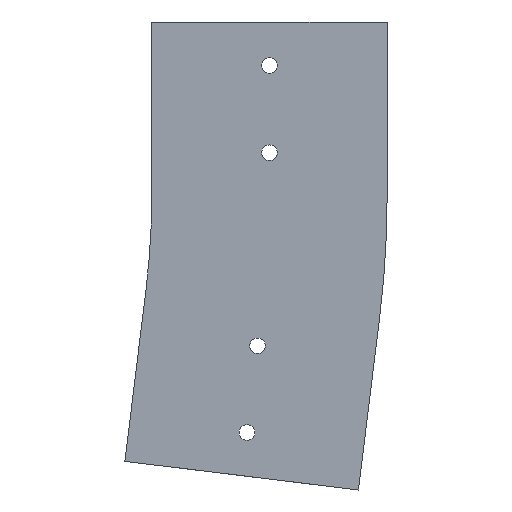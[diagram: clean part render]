
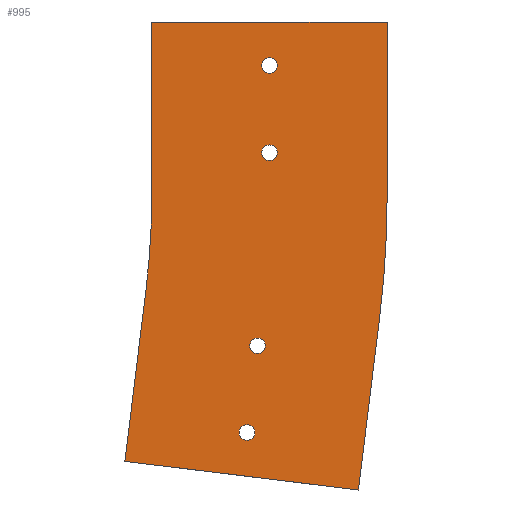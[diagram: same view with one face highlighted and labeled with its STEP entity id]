
A CAD part, left-side view. The second image highlights one B-rep face of the part: STEP entity #995.
In plain terms, the highlighted planar face has unit normal (-1, 0, 0).
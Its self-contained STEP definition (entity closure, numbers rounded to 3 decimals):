
#27 = DIRECTION ( 'NONE',  ( 0., -0.993, -0.122 ) ) ;
#30 = CARTESIAN_POINT ( 'NONE',  ( -43., -51.083, -268.415 ) ) ;
#37 = CARTESIAN_POINT ( 'NONE',  ( -43., 67.5, -100. ) ) ;
#39 = DIRECTION ( 'NONE',  ( 0., 0., 1. ) ) ;
#43 = DIRECTION ( 'NONE',  ( 0., 0., 1. ) ) ;
#65 = CARTESIAN_POINT ( 'NONE',  ( -43., 0., -75. ) ) ;
#66 = DIRECTION ( 'NONE',  ( -1., 0., 0. ) ) ;
#95 = DIRECTION ( 'NONE',  ( 0., 0., -1. ) ) ;
#106 = DIRECTION ( 'NONE',  ( 0., -1., 0. ) ) ;
#107 = CARTESIAN_POINT ( 'NONE',  ( -43., -67.5, 0. ) ) ;
#111 = CARTESIAN_POINT ( 'NONE',  ( -43., 6.774, -185.748 ) ) ;
#112 = DIRECTION ( 'NONE',  ( 0., 0., 1. ) ) ;
#116 = DIRECTION ( 'NONE',  ( -1., 0., 0. ) ) ;
#122 = DIRECTION ( 'NONE',  ( -1., 0., 0. ) ) ;
#133 = CARTESIAN_POINT ( 'NONE',  ( -43., 500., -100. ) ) ;
#134 = DIRECTION ( 'NONE',  ( 1., 0., 0. ) ) ;
#136 = DIRECTION ( 'NONE',  ( 0., 0., 1. ) ) ;
#144 = CARTESIAN_POINT ( 'NONE',  ( -43., 0., -25. ) ) ;
#191 = VECTOR ( 'NONE', #1602, 1000. ) ;
#192 = LINE ( 'NONE', #1603, #191 ) ;
#195 = FACE_OUTER_BOUND ( 'NONE', #445, .T. ) ;
#196 = FACE_BOUND ( 'NONE', #499, .T. ) ;
#197 = FACE_BOUND ( 'NONE', #478, .T. ) ;
#198 = FACE_BOUND ( 'NONE', #446, .T. ) ;
#199 = FACE_BOUND ( 'NONE', #500, .T. ) ;
#445 = EDGE_LOOP ( 'NONE', ( #555, #556, #557, #558, #559, #560, #561, #562 ) ) ;
#446 = EDGE_LOOP ( 'NONE', ( #549, #550 ) ) ;
#478 = EDGE_LOOP ( 'NONE', ( #551, #552 ) ) ;
#499 = EDGE_LOOP ( 'NONE', ( #553, #554 ) ) ;
#500 = EDGE_LOOP ( 'NONE', ( #547, #548 ) ) ;
#547 = ORIENTED_EDGE ( 'NONE', *, *, #2576, .F. ) ;
#548 = ORIENTED_EDGE ( 'NONE', *, *, #2793, .F. ) ;
#549 = ORIENTED_EDGE ( 'NONE', *, *, #2593, .F. ) ;
#550 = ORIENTED_EDGE ( 'NONE', *, *, #2636, .F. ) ;
#551 = ORIENTED_EDGE ( 'NONE', *, *, #2818, .F. ) ;
#552 = ORIENTED_EDGE ( 'NONE', *, *, #2662, .F. ) ;
#553 = ORIENTED_EDGE ( 'NONE', *, *, #2825, .F. ) ;
#554 = ORIENTED_EDGE ( 'NONE', *, *, #2566, .F. ) ;
#555 = ORIENTED_EDGE ( 'NONE', *, *, #2851, .F. ) ;
#556 = ORIENTED_EDGE ( 'NONE', *, *, #2801, .F. ) ;
#557 = ORIENTED_EDGE ( 'NONE', *, *, #2612, .T. ) ;
#558 = ORIENTED_EDGE ( 'NONE', *, *, #2703, .T. ) ;
#559 = ORIENTED_EDGE ( 'NONE', *, *, #2805, .T. ) ;
#560 = ORIENTED_EDGE ( 'NONE', *, *, #2561, .F. ) ;
#561 = ORIENTED_EDGE ( 'NONE', *, *, #2842, .F. ) ;
#562 = ORIENTED_EDGE ( 'NONE', *, *, #2628, .T. ) ;
#995 = ADVANCED_FACE ( 'NONE', ( #199, #198, #197, #196, #195 ), #1770, .T. ) ;
#1021 = CIRCLE ( 'NONE', #2475, 4.5 ) ;
#1023 = VECTOR ( 'NONE', #106, 1000. ) ;
#1032 = VECTOR ( 'NONE', #27, 1000. ) ;
#1034 = LINE ( 'NONE', #30, #1032 ) ;
#1037 = VECTOR ( 'NONE', #39, 1000. ) ;
#1038 = LINE ( 'NONE', #37, #1037 ) ;
#1051 = CIRCLE ( 'NONE', #2482, 4.5 ) ;
#1064 = CIRCLE ( 'NONE', #2474, 4.5 ) ;
#1090 = CIRCLE ( 'NONE', #2471, 567.5 ) ;
#1096 = LINE ( 'NONE', #107, #1023 ) ;
#1126 = CIRCLE ( 'NONE', #2532, 4.5 ) ;
#1207 = VECTOR ( 'NONE', #2124, 1000. ) ;
#1208 = LINE ( 'NONE', #2123, #1207 ) ;
#1283 = CIRCLE ( 'NONE', #2507, 4.5 ) ;
#1331 = CIRCLE ( 'NONE', #2511, 4.5 ) ;
#1341 = CIRCLE ( 'NONE', #2527, 4.5 ) ;
#1350 = VECTOR ( 'NONE', #1463, 1000. ) ;
#1351 = LINE ( 'NONE', #1464, #1350 ) ;
#1399 = CIRCLE ( 'NONE', #2517, 432.5 ) ;
#1442 = CIRCLE ( 'NONE', #2520, 4.5 ) ;
#1446 = DIRECTION ( 'NONE',  ( 0., 0., 1. ) ) ;
#1447 = DIRECTION ( 'NONE',  ( -1., 0., 0. ) ) ;
#1448 = CARTESIAN_POINT ( 'NONE',  ( -43., 12.867, -235.376 ) ) ;
#1463 = DIRECTION ( 'NONE',  ( 0., 0., 1. ) ) ;
#1464 = CARTESIAN_POINT ( 'NONE',  ( -43., -67.5, -100. ) ) ;
#1500 = DIRECTION ( 'NONE',  ( 0., 0., -1. ) ) ;
#1501 = DIRECTION ( 'NONE',  ( 1., 0., 0. ) ) ;
#1502 = CARTESIAN_POINT ( 'NONE',  ( -43., 500., -100. ) ) ;
#1533 = DIRECTION ( 'NONE',  ( 0., 0., 1. ) ) ;
#1534 = DIRECTION ( 'NONE',  ( -1., 0., 0. ) ) ;
#1535 = CARTESIAN_POINT ( 'NONE',  ( -43., 12.867, -235.376 ) ) ;
#1568 = DIRECTION ( 'NONE',  ( 0., 0., 1. ) ) ;
#1569 = DIRECTION ( 'NONE',  ( -1., 0., 0. ) ) ;
#1570 = CARTESIAN_POINT ( 'NONE',  ( -43., 0., -75. ) ) ;
#1589 = DIRECTION ( 'NONE',  ( 0., 0., 1. ) ) ;
#1590 = DIRECTION ( 'NONE',  ( -1., 0., 0. ) ) ;
#1591 = CARTESIAN_POINT ( 'NONE',  ( -43., 0., -25. ) ) ;
#1602 = DIRECTION ( 'NONE',  ( 0., 0.122, -0.993 ) ) ;
#1603 = CARTESIAN_POINT ( 'NONE',  ( -43., -63.27, -169.161 ) ) ;
#1623 = CARTESIAN_POINT ( 'NONE',  ( -43., 0., -79.5 ) ) ;
#1624 = CARTESIAN_POINT ( 'NONE',  ( -43., -63.27, -169.161 ) ) ;
#1633 = CARTESIAN_POINT ( 'NONE',  ( -43., 0., -20.5 ) ) ;
#1637 = CARTESIAN_POINT ( 'NONE',  ( -43., 0., -70.5 ) ) ;
#1653 = CARTESIAN_POINT ( 'NONE',  ( -43., 12.867, -230.876 ) ) ;
#1677 = CARTESIAN_POINT ( 'NONE',  ( -43., -67.5, 0. ) ) ;
#1680 = CARTESIAN_POINT ( 'NONE',  ( -43., 67.5, 0. ) ) ;
#1681 = CARTESIAN_POINT ( 'NONE',  ( -43., 12.867, -239.876 ) ) ;
#1683 = CARTESIAN_POINT ( 'NONE',  ( -43., 0., -29.5 ) ) ;
#1684 = CARTESIAN_POINT ( 'NONE',  ( -43., 70.724, -152.708 ) ) ;
#1692 = CARTESIAN_POINT ( 'NONE',  ( -43., -67.5, -100. ) ) ;
#1695 = CARTESIAN_POINT ( 'NONE',  ( -43., 6.774, -181.248 ) ) ;
#1709 = CARTESIAN_POINT ( 'NONE',  ( -43., 82.911, -251.963 ) ) ;
#1718 = CARTESIAN_POINT ( 'NONE',  ( -43., -51.083, -268.415 ) ) ;
#1753 = CARTESIAN_POINT ( 'NONE',  ( -43., 67.5, -100. ) ) ;
#1758 = CARTESIAN_POINT ( 'NONE',  ( -43., 6.774, -190.248 ) ) ;
#1767 = DIRECTION ( 'NONE',  ( 0., 0., 1. ) ) ;
#1768 = DIRECTION ( 'NONE',  ( -1., 0., 0. ) ) ;
#1769 = CARTESIAN_POINT ( 'NONE',  ( -43., -67.5, -100. ) ) ;
#1770 = PLANE ( 'NONE',  #2535 ) ;
#1907 = DIRECTION ( 'NONE',  ( -1., 0., 0. ) ) ;
#1927 = VERTEX_POINT ( 'NONE', #1758 ) ;
#1963 = CARTESIAN_POINT ( 'NONE',  ( -43., 6.774, -185.748 ) ) ;
#2013 = DIRECTION ( 'NONE',  ( 0., 0., 1. ) ) ;
#2123 = CARTESIAN_POINT ( 'NONE',  ( -43., 70.724, -152.708 ) ) ;
#2124 = DIRECTION ( 'NONE',  ( 0., 0.122, -0.993 ) ) ;
#2272 = VERTEX_POINT ( 'NONE', #1753 ) ;
#2318 = VERTEX_POINT ( 'NONE', #1718 ) ;
#2329 = VERTEX_POINT ( 'NONE', #1709 ) ;
#2343 = VERTEX_POINT ( 'NONE', #1695 ) ;
#2346 = VERTEX_POINT ( 'NONE', #1692 ) ;
#2354 = VERTEX_POINT ( 'NONE', #1684 ) ;
#2355 = VERTEX_POINT ( 'NONE', #1683 ) ;
#2357 = VERTEX_POINT ( 'NONE', #1681 ) ;
#2358 = VERTEX_POINT ( 'NONE', #1680 ) ;
#2363 = VERTEX_POINT ( 'NONE', #1677 ) ;
#2389 = VERTEX_POINT ( 'NONE', #1653 ) ;
#2405 = VERTEX_POINT ( 'NONE', #1637 ) ;
#2409 = VERTEX_POINT ( 'NONE', #1633 ) ;
#2418 = VERTEX_POINT ( 'NONE', #1624 ) ;
#2419 = VERTEX_POINT ( 'NONE', #1623 ) ;
#2471 = AXIS2_PLACEMENT_3D ( 'NONE', #133, #134, #95 ) ;
#2474 = AXIS2_PLACEMENT_3D ( 'NONE', #144, #116, #136 ) ;
#2475 = AXIS2_PLACEMENT_3D ( 'NONE', #111, #122, #112 ) ;
#2482 = AXIS2_PLACEMENT_3D ( 'NONE', #65, #66, #43 ) ;
#2507 = AXIS2_PLACEMENT_3D ( 'NONE', #1963, #1907, #2013 ) ;
#2511 = AXIS2_PLACEMENT_3D ( 'NONE', #1448, #1447, #1446 ) ;
#2517 = AXIS2_PLACEMENT_3D ( 'NONE', #1502, #1501, #1500 ) ;
#2520 = AXIS2_PLACEMENT_3D ( 'NONE', #1535, #1534, #1533 ) ;
#2527 = AXIS2_PLACEMENT_3D ( 'NONE', #1570, #1569, #1568 ) ;
#2532 = AXIS2_PLACEMENT_3D ( 'NONE', #1591, #1590, #1589 ) ;
#2535 = AXIS2_PLACEMENT_3D ( 'NONE', #1769, #1768, #1767 ) ;
#2561 = EDGE_CURVE ( 'NONE', #2418, #2318, #192, .T. ) ;
#2566 = EDGE_CURVE ( 'NONE', #2355, #2409, #1126, .T. ) ;
#2576 = EDGE_CURVE ( 'NONE', #2405, #2419, #1341, .T. ) ;
#2593 = EDGE_CURVE ( 'NONE', #2389, #2357, #1442, .T. ) ;
#2612 = EDGE_CURVE ( 'NONE', #2272, #2354, #1399, .T. ) ;
#2628 = EDGE_CURVE ( 'NONE', #2346, #2363, #1351, .T. ) ;
#2636 = EDGE_CURVE ( 'NONE', #2357, #2389, #1331, .T. ) ;
#2662 = EDGE_CURVE ( 'NONE', #1927, #2343, #1283, .T. ) ;
#2703 = EDGE_CURVE ( 'NONE', #2354, #2329, #1208, .T. ) ;
#2793 = EDGE_CURVE ( 'NONE', #2419, #2405, #1051, .T. ) ;
#2801 = EDGE_CURVE ( 'NONE', #2272, #2358, #1038, .T. ) ;
#2805 = EDGE_CURVE ( 'NONE', #2329, #2318, #1034, .T. ) ;
#2818 = EDGE_CURVE ( 'NONE', #2343, #1927, #1021, .T. ) ;
#2825 = EDGE_CURVE ( 'NONE', #2409, #2355, #1064, .T. ) ;
#2842 = EDGE_CURVE ( 'NONE', #2346, #2418, #1090, .T. ) ;
#2851 = EDGE_CURVE ( 'NONE', #2358, #2363, #1096, .T. ) ;
